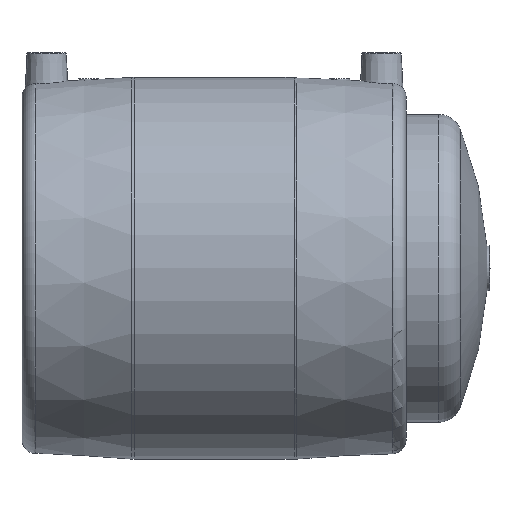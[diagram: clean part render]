
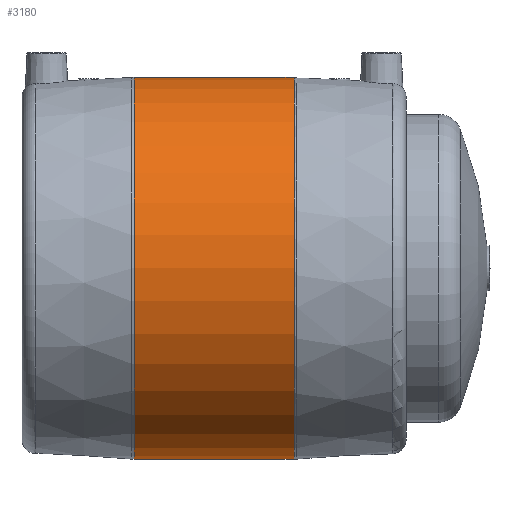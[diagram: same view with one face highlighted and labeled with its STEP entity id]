
A CAD part, front view. The second image highlights one B-rep face of the part: STEP entity #3180.
In plain terms, the highlighted cylindrical face has radius 77.5 mm (diameter 155 mm), a full revolution.
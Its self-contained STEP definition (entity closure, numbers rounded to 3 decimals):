
#255=CYLINDRICAL_SURFACE('',#3453,77.5);
#317=CIRCLE('',#3454,77.5);
#318=CIRCLE('',#3455,77.5);
#550=ORIENTED_EDGE('',*,*,#1554,.T.);
#551=ORIENTED_EDGE('',*,*,#1555,.T.);
#1554=EDGE_CURVE('',#2055,#2055,#317,.F.);
#1555=EDGE_CURVE('',#2056,#2056,#318,.T.);
#2055=VERTEX_POINT('',#4530);
#2056=VERTEX_POINT('',#4532);
#2614=EDGE_LOOP('',(#550));
#2615=EDGE_LOOP('',(#551));
#2896=FACE_BOUND('',#2614,.T.);
#2897=FACE_BOUND('',#2615,.T.);
#3180=ADVANCED_FACE('',(#2896,#2897),#255,.T.);
#3453=AXIS2_PLACEMENT_3D('',#4528,#3789,#3790);
#3454=AXIS2_PLACEMENT_3D('',#4529,#3791,#3792);
#3455=AXIS2_PLACEMENT_3D('',#4531,#3793,#3794);
#3789=DIRECTION('',(-1.,0.,0.));
#3790=DIRECTION('',(0.,0.,1.));
#3791=DIRECTION('',(1.,0.,0.));
#3792=DIRECTION('',(0.,0.,-1.));
#3793=DIRECTION('',(1.,0.,0.));
#3794=DIRECTION('',(0.,0.,-1.));
#4528=CARTESIAN_POINT('',(-60.,0.,0.));
#4529=CARTESIAN_POINT('',(32.445,0.,0.));
#4530=CARTESIAN_POINT('',(32.445,0.,-77.5));
#4531=CARTESIAN_POINT('',(-32.445,0.,0.));
#4532=CARTESIAN_POINT('',(-32.445,0.,-77.5));
